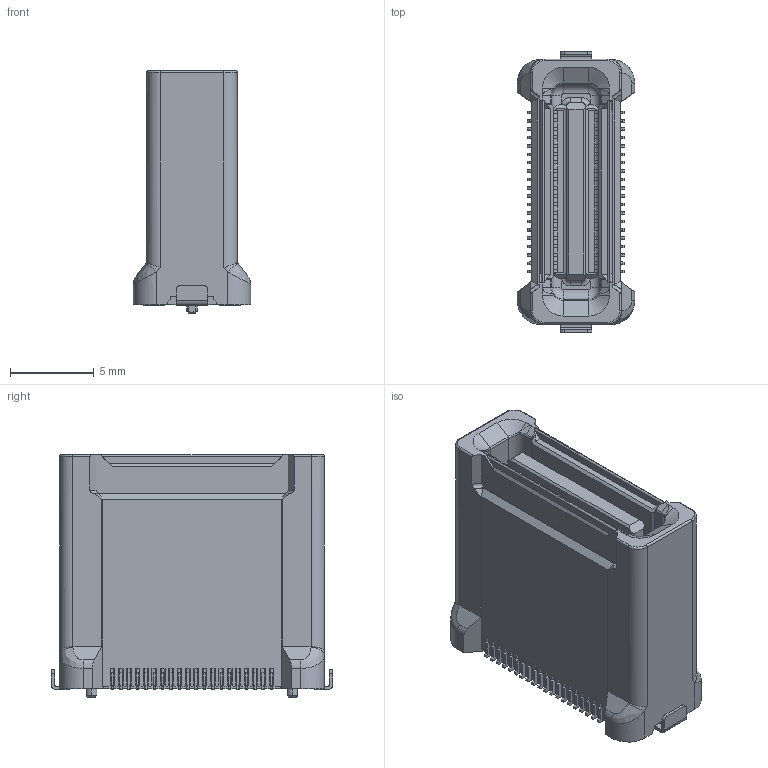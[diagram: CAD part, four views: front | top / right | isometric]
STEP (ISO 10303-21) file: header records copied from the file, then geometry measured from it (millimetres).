
FILE_DESCRIPTION (( 'STEP AP214' ), '1' );
FILE_NAME ('245656040010829+T_a.STEP', '2021-06-29T00:41:15', ( '' ), ( '' ), 'SwSTEP 2.0', 'SolidWorks 2017', '' );
FILE_SCHEMA (( 'AUTOMOTIVE_DESIGN' ));
Length unit declared in the file: millimetre
Products named in the file (1): 245656040010829+T_a
Bounding box: 7 x 16.8 x 14.45 mm (x, y, z)
Volume: 1058.4 mm3; surface area: 956.6 mm2
Topology: 1 solids, 1 shells, 1014 faces, 2936 edges, 1926 vertices
Faces by surface type: plane 734, cylinder 238, torus 18, cone 12, bspline 12
Entity records: 33958 total; most frequent: CARTESIAN_POINT 7615, ORIENTED_EDGE 5872, DIRECTION 4942, EDGE_CURVE 2936, VECTOR 2372, LINE 2372, VERTEX_POINT 1926, AXIS2_PLACEMENT_3D 1285
